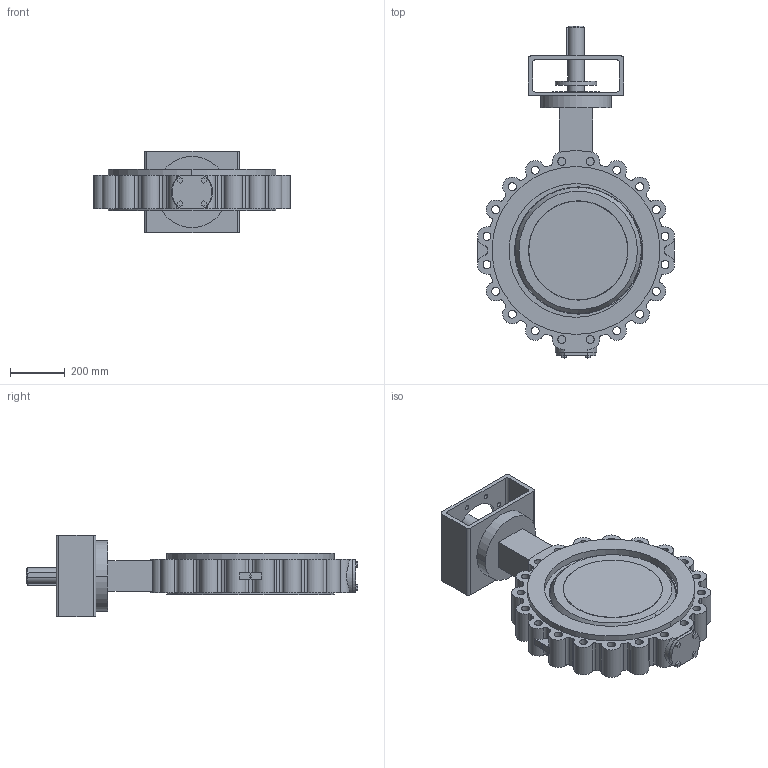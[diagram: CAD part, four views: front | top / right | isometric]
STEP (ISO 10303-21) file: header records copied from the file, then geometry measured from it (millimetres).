
FILE_DESCRIPTION( ( '' ), '1' );
FILE_NAME( 'F:/DE-SHS/TB/OR/04-Sonstiges/daten/files_3d/018_ZETRIX-PN10_freiesWellende/c000006377.stp', '2016-09-01T11:05:30', ( '' ), ( '' ), ' ', ' ', ' ' );
FILE_SCHEMA( ( 'CONFIG_CONTROL_DESIGN' ) );
Length unit declared in the file: millimetre
Products named in the file (1): 1
Bounding box: 721.87 x 1215.6 x 300 mm (x, y, z)
Volume: 48011553.6 mm3; surface area: 2473278.2 mm2
Topology: 1 solids, 1 shells, 332 faces, 902 edges, 602 vertices
Faces by surface type: cylinder 218, plane 106, sphere 4, cone 4
Entity records: 11578 total; most frequent: CARTESIAN_POINT 2607, DIRECTION 2002, ORIENTED_EDGE 1804, EDGE_CURVE 902, AXIS2_PLACEMENT_3D 795, VERTEX_POINT 602, CIRCLE 462, EDGE_LOOP 420
